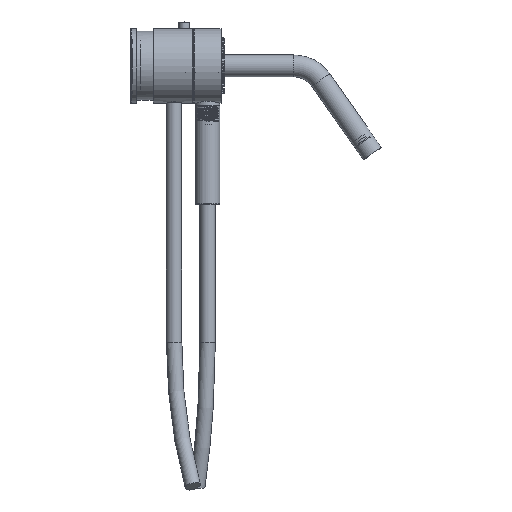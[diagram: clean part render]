
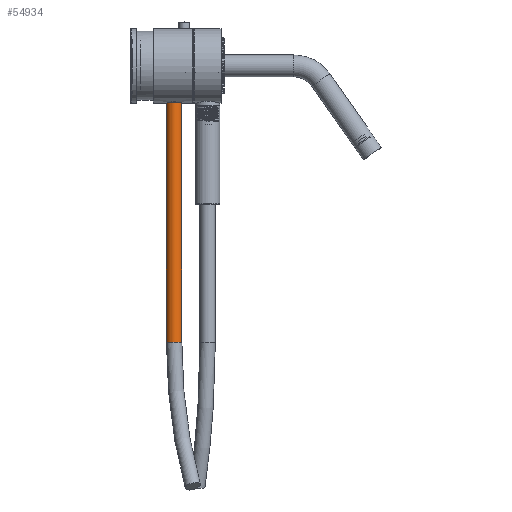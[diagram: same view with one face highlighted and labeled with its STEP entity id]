
A CAD part, left-side view. The second image highlights one B-rep face of the part: STEP entity #54934.
In plain terms, the highlighted cylindrical face has radius 7 mm (diameter 14 mm), a full revolution.
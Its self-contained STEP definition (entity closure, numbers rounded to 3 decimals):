
#18089=ORIENTED_EDGE('',*,*,#23605,.F.);
#18090=ORIENTED_EDGE('',*,*,#23606,.F.);
#23605=EDGE_CURVE('',#26998,#26998,#29181,.T.);
#23606=EDGE_CURVE('',#26999,#26999,#29182,.F.);
#26998=VERTEX_POINT('',#97622);
#26999=VERTEX_POINT('',#97624);
#29181=CIRCLE('',#59934,7.);
#29182=CIRCLE('',#59935,7.);
#32557=EDGE_LOOP('',(#18089));
#32558=EDGE_LOOP('',(#18090));
#35941=FACE_BOUND('',#32557,.T.);
#35942=FACE_BOUND('',#32558,.T.);
#36520=CYLINDRICAL_SURFACE('',#59933,7.);
#54934=ADVANCED_FACE('',(#35941,#35942),#36520,.T.);
#59933=AXIS2_PLACEMENT_3D('',#97620,#71276,#71277);
#59934=AXIS2_PLACEMENT_3D('',#97621,#71278,#71279);
#59935=AXIS2_PLACEMENT_3D('',#97623,#71280,#71281);
#71276=DIRECTION('',(0.,0.,1.));
#71277=DIRECTION('',(0.,-1.,0.));
#71278=DIRECTION('',(0.,0.,1.));
#71279=DIRECTION('',(-1.,0.,0.));
#71280=DIRECTION('',(0.,0.,1.));
#71281=DIRECTION('',(-1.,0.,0.));
#97620=CARTESIAN_POINT('',(0.,30.5,-56.711));
#97621=CARTESIAN_POINT('',(0.,30.5,164.119));
#97622=CARTESIAN_POINT('',(-7.,30.5,164.119));
#97623=CARTESIAN_POINT('',(0.,30.5,-56.711));
#97624=CARTESIAN_POINT('',(-7.,30.5,-56.711));
